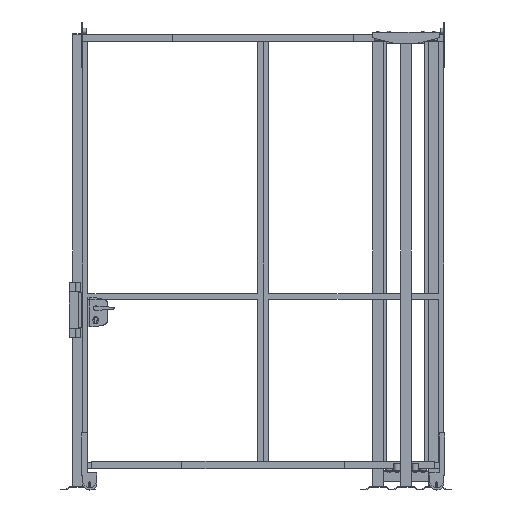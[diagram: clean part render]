
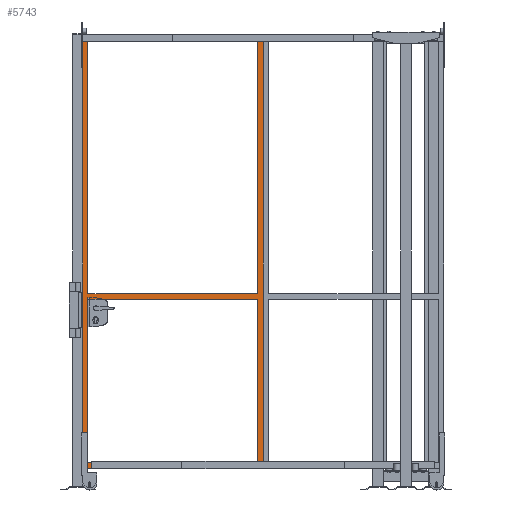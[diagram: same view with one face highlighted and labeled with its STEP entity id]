
A CAD part, front view. The second image highlights one B-rep face of the part: STEP entity #5743.
In plain terms, the highlighted planar face has unit normal (0, -1, 0).
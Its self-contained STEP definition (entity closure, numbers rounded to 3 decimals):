
#447=FACE_BOUND('',#946,.T.);
#448=FACE_BOUND('',#947,.T.);
#495=FACE_OUTER_BOUND('',#945,.T.);
#945=EDGE_LOOP('',(#3234,#3235,#3236,#3237));
#946=EDGE_LOOP('',(#3238,#3239,#3240,#3241));
#947=EDGE_LOOP('',(#3242,#3243,#3244,#3245));
#1437=VERTEX_POINT('',#11626);
#1439=VERTEX_POINT('',#11629);
#1442=VERTEX_POINT('',#11636);
#1444=VERTEX_POINT('',#11640);
#1445=VERTEX_POINT('',#11644);
#1447=VERTEX_POINT('',#11650);
#1448=VERTEX_POINT('',#11651);
#1449=VERTEX_POINT('',#11653);
#1450=VERTEX_POINT('',#11655);
#1451=VERTEX_POINT('',#11658);
#1452=VERTEX_POINT('',#11660);
#1453=VERTEX_POINT('',#11663);
#2156=EDGE_CURVE('',#1437,#1439,#6570,.T.);
#2162=EDGE_CURVE('',#1444,#1442,#6576,.T.);
#2163=EDGE_CURVE('',#1445,#1442,#6577,.T.);
#2166=EDGE_CURVE('',#1447,#1448,#6580,.T.);
#2167=EDGE_CURVE('',#1449,#1448,#6581,.T.);
#2168=EDGE_CURVE('',#1450,#1449,#6582,.T.);
#2169=EDGE_CURVE('',#1447,#1450,#6583,.T.);
#2170=EDGE_CURVE('',#1437,#1451,#6584,.T.);
#2171=EDGE_CURVE('',#1451,#1452,#6585,.T.);
#2172=EDGE_CURVE('',#1452,#1439,#6586,.T.);
#2173=EDGE_CURVE('',#1444,#1453,#6587,.T.);
#2174=EDGE_CURVE('',#1453,#1445,#6588,.T.);
#3234=ORIENTED_EDGE('',*,*,#2166,.T.);
#3235=ORIENTED_EDGE('',*,*,#2167,.F.);
#3236=ORIENTED_EDGE('',*,*,#2168,.F.);
#3237=ORIENTED_EDGE('',*,*,#2169,.F.);
#3238=ORIENTED_EDGE('',*,*,#2170,.T.);
#3239=ORIENTED_EDGE('',*,*,#2171,.T.);
#3240=ORIENTED_EDGE('',*,*,#2172,.T.);
#3241=ORIENTED_EDGE('',*,*,#2156,.F.);
#3242=ORIENTED_EDGE('',*,*,#2162,.F.);
#3243=ORIENTED_EDGE('',*,*,#2173,.T.);
#3244=ORIENTED_EDGE('',*,*,#2174,.T.);
#3245=ORIENTED_EDGE('',*,*,#2163,.T.);
#5359=PLANE('',#8627);
#5743=ADVANCED_FACE('',(#495,#447,#448),#5359,.F.);
#6570=LINE('',#11630,#7597);
#6576=LINE('',#11642,#7603);
#6577=LINE('',#11645,#7604);
#6580=LINE('',#11652,#7607);
#6581=LINE('',#11654,#7608);
#6582=LINE('',#11656,#7609);
#6583=LINE('',#11657,#7610);
#6584=LINE('',#11659,#7611);
#6585=LINE('',#11661,#7612);
#6586=LINE('',#11662,#7613);
#6587=LINE('',#11664,#7614);
#6588=LINE('',#11665,#7615);
#7597=VECTOR('',#9287,1.);
#7603=VECTOR('',#9295,1.);
#7604=VECTOR('',#9298,1.);
#7607=VECTOR('',#9303,1.);
#7608=VECTOR('',#9304,1.);
#7609=VECTOR('',#9305,1.);
#7610=VECTOR('',#9306,1.);
#7611=VECTOR('',#9307,1.);
#7612=VECTOR('',#9308,1.);
#7613=VECTOR('',#9309,1.);
#7614=VECTOR('',#9310,1.);
#7615=VECTOR('',#9311,1.);
#8627=AXIS2_PLACEMENT_3D('',#11649,#9301,#9302);
#9287=DIRECTION('',(1.,0.,0.));
#9295=DIRECTION('',(-1.,0.,0.));
#9298=DIRECTION('',(0.,0.,1.));
#9301=DIRECTION('center_axis',(0.,1.,0.));
#9302=DIRECTION('ref_axis',(0.,0.,1.));
#9303=DIRECTION('',(0.,0.,-1.));
#9304=DIRECTION('',(-1.,0.,0.));
#9305=DIRECTION('',(0.,0.,-1.));
#9306=DIRECTION('',(1.,0.,0.));
#9307=DIRECTION('',(0.,0.,1.));
#9308=DIRECTION('',(1.,0.,0.));
#9309=DIRECTION('',(0.,0.,-1.));
#9310=DIRECTION('',(0.,0.,-1.));
#9311=DIRECTION('',(-1.,0.,0.));
#11626=CARTESIAN_POINT('',(30.,0.,965.));
#11629=CARTESIAN_POINT('',(970.,0.,965.));
#11630=CARTESIAN_POINT('',(500.,0.,965.));
#11636=CARTESIAN_POINT('',(30.,0.,935.));
#11640=CARTESIAN_POINT('',(970.,0.,935.));
#11642=CARTESIAN_POINT('',(500.,0.,935.));
#11644=CARTESIAN_POINT('',(30.,0.,30.));
#11645=CARTESIAN_POINT('',(30.,0.,1200.));
#11649=CARTESIAN_POINT('Origin',(500.,0.,1200.));
#11650=CARTESIAN_POINT('',(0.,0.,2400.));
#11651=CARTESIAN_POINT('',(0.,0.,0.));
#11652=CARTESIAN_POINT('',(0.,0.,1200.));
#11653=CARTESIAN_POINT('',(1000.,0.,0.));
#11654=CARTESIAN_POINT('',(500.,0.,0.));
#11655=CARTESIAN_POINT('',(1000.,0.,2400.));
#11656=CARTESIAN_POINT('',(1000.,0.,1200.));
#11657=CARTESIAN_POINT('',(500.,0.,2400.));
#11658=CARTESIAN_POINT('',(30.,0.,2370.));
#11659=CARTESIAN_POINT('',(30.,0.,1200.));
#11660=CARTESIAN_POINT('',(970.,0.,2370.));
#11661=CARTESIAN_POINT('',(500.,0.,2370.));
#11662=CARTESIAN_POINT('',(970.,0.,1200.));
#11663=CARTESIAN_POINT('',(970.,0.,30.));
#11664=CARTESIAN_POINT('',(970.,0.,1200.));
#11665=CARTESIAN_POINT('',(500.,0.,30.));
